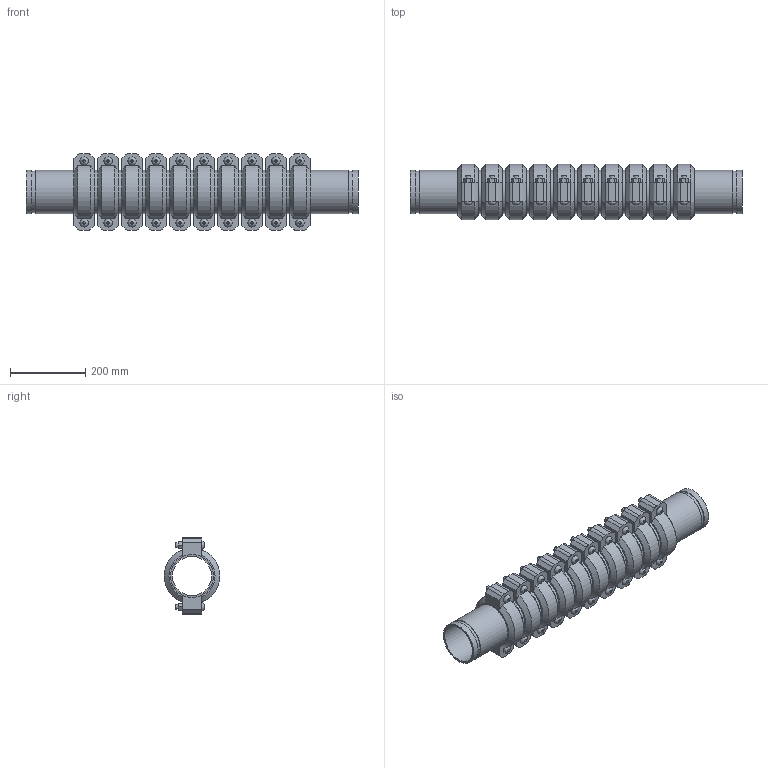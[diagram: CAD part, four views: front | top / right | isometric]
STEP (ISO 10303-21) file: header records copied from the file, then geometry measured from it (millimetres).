
FILE_DESCRIPTION(/* description */ ('VIC SS EXPANSION JOINT 10 COUPLINGS NEUTRAL STYLE 155P (OGS) (POTABLE WATER) ','CAx-IF Rec.Pracs.---Representation and Presentation of Product Manufacturing Information (PMI)---4.0---2014-10-13'),/* implementation_level */ '2;1');
FILE_NAME(/* name */ 'C:\Users\kkamble\AppData\Roaming\Autodesk\ApplicationPlugins\Victaulic.Temp\A116\Victaulic_SS_Expansion Joint_Neutral_10 Couplings_Style 155P (OGS)-Potable Water_10 Coup_Neut_4 (100).stp',/* time_stamp */ '2021-07-16T16:27:14+06:00',/* author */ ('kkamble'),/* organization */ ('Victaulic'),/* preprocessor_version */ 'ST-DEVELOPER v17.2',/* originating_system */ 'Autodesk Inventor 2019',/* authorisation */ '');
FILE_SCHEMA (('AP242_MANAGED_MODEL_BASED_3D_ENGINEERING_MIM_LF { 1 0 10303 442 1 1 4 }'));
Length unit declared in the file: inch
Products named in the file (4): 155P-04.0; Nipple-04.0; Nipple-04.0_1; 075-04.0
Assembly tree (21 placements, depth 2):
  155P-04.0
    Nipple-04.0  x2
    Nipple-04.0_1  x9
    075-04.0  x10
Bounding box: 879.86 x 147.32 x 203.96 mm (x, y, z)
Volume: 6178824.4 mm3; surface area: 1430687 mm2
Topology: 21 solids, 41 shells, 702 faces, 1660 edges, 1164 vertices
Faces by surface type: plane 426, cylinder 216, cone 40, bspline 20
Full cylindrical faces by diameter (mm): 12.7 x40, 14.605 x20, 103.988 x11, 107.95 x10, 110.084 x22, 114.3 x53
Entity records: 2881 total; most frequent: CARTESIAN_POINT 505, DIRECTION 485, ORIENTED_EDGE 386, AXIS2_PLACEMENT_3D 196, EDGE_CURVE 193, VERTEX_POINT 138, EDGE_LOOP 107, LINE 93
